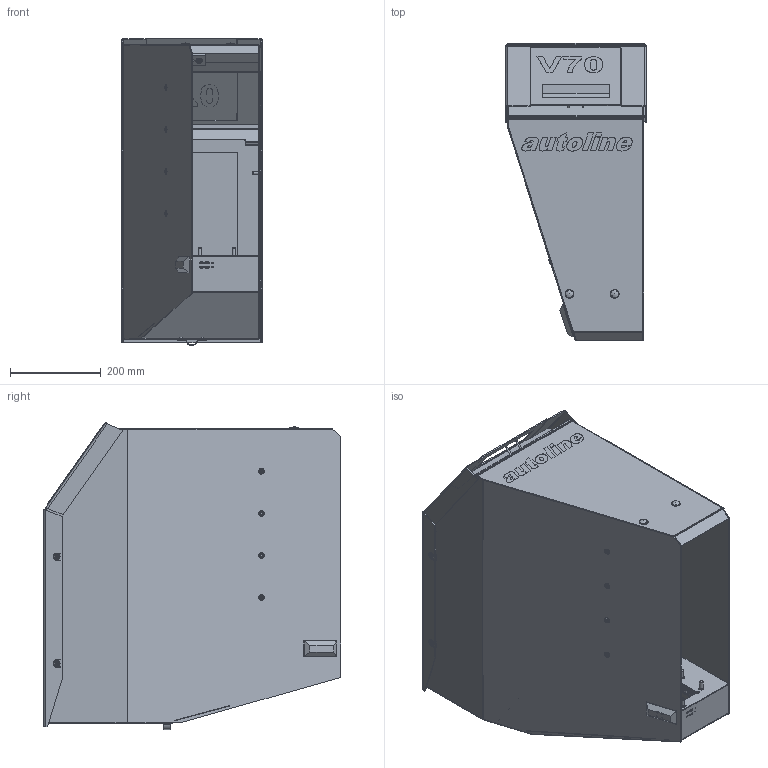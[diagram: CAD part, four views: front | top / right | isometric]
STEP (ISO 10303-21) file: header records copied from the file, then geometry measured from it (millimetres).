
FILE_DESCRIPTION((''),'2;1');
FILE_NAME('C:\Projects_1\Workspace\Autoline\Export\Step\V70H.Complete No Brackets.stp','2010-12-30T16:24:04',('borhar'),(''),'Autodesk Inventor 2011','Autodesk Inventor 2011','');
FILE_SCHEMA(('AUTOMOTIVE_DESIGN { 1 0 10303 214 1 1 1 1 }'));
Products named in the file (24): V70H.iam (Export); 2302001; 4498419-Flat; 4498118; 2302090; 2302090V; 2302090-1; Wire; F- Wire; F- wirebrakett; 2199003; 2101001; 2200002; 4498413; 4498108; 4498409-Flat; 7198706; 4498206; 7296000.iam (Export); Frontplate V70H; Sideplate V70H Venstre; Sideplate V70H Høyre; Motorplate V70H; Bakplate V70H
Assembly tree (43 placements, depth 4):
  V70H.iam (Export)
    2302001
    4498419-Flat  x12
    4498118  x2
    2302090
      2302090V
      2302090-1
      Wire
        F- Wire
        F- wirebrakett
    2199003
    2101001
    2200002
    4498413  x2
    4498108  x4
    4498409-Flat  x4
    7198706
    4498206  x2
    7296000.iam (Export)
      Frontplate V70H
      Sideplate V70H Venstre
      Sideplate V70H Høyre
      Motorplate V70H
      Bakplate V70H
Bounding box: 309 x 657.38 x 677.64 mm (x, y, z)
Volume: 3044828.1 mm3; surface area: 3120440.6 mm2
Topology: 43 solids, 44 shells, 1535 faces, 3712 edges, 2360 vertices
Faces by surface type: plane 653, cylinder 652, bspline 118, torus 54, cone 48, sphere 10
Full cylindrical faces by diameter (mm): 3 x1, 3.5 x4, 3.652 x2, 3.969 x76, 4.8 x4, 5 x5, 7 x26, 7.323 x4, 7.4 x2, 7.938 x36, 8 x8, 8.5 x4, 10 x3, 11 x1, 11.4 x4, 13 x1, 14 x2, 18 x1
Entity records: 41730 total; most frequent: CARTESIAN_POINT 9131, DIRECTION 7086, ORIENTED_EDGE 6128, EDGE_CURVE 3064, AXIS2_PLACEMENT_3D 2907, VERTEX_POINT 2059, EDGE_LOOP 1739, CIRCLE 1611
